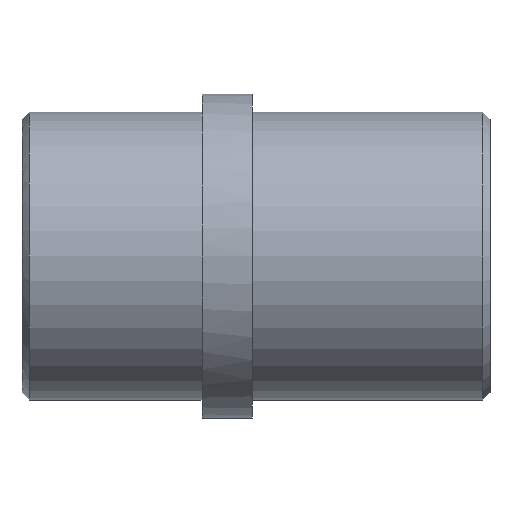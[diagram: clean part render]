
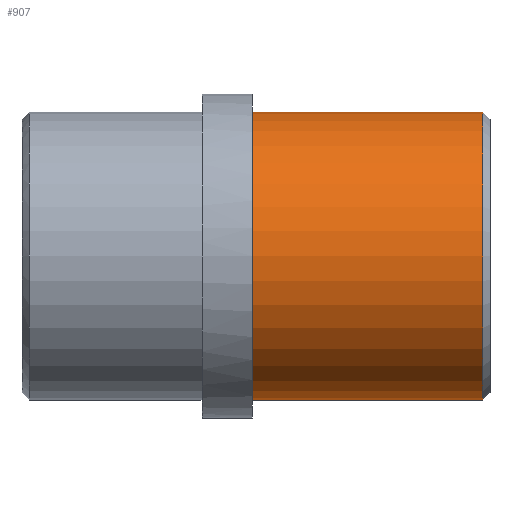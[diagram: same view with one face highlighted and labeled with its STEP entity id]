
A CAD part, front view. The second image highlights one B-rep face of the part: STEP entity #907.
In plain terms, the highlighted cylindrical face has radius 20 mm (diameter 40 mm), a partial arc.
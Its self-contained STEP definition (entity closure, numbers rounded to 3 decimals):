
#773=CARTESIAN_POINT('Vertex',(0.,0.,-20.)) ;
#778=CARTESIAN_POINT('Axis2P3D Location',(0.,0.,0.)) ;
#782=CARTESIAN_POINT('Vertex',(0.,-20.,0.)) ;
#785=CARTESIAN_POINT('Axis2P3D Location',(0.,0.,0.)) ;
#789=CARTESIAN_POINT('Vertex',(0.,0.,20.)) ;
#813=CARTESIAN_POINT('Vertex',(32.,0.,20.)) ;
#820=CARTESIAN_POINT('Vertex',(32.,0.,-20.)) ;
#849=CARTESIAN_POINT('Axis2P3D Location',(32.,0.,0.)) ;
#853=CARTESIAN_POINT('Vertex',(32.,-20.,0.)) ;
#856=CARTESIAN_POINT('Axis2P3D Location',(32.,0.,0.)) ;
#875=CARTESIAN_POINT('Line Origine',(33.,0.,20.)) ;
#880=CARTESIAN_POINT('Line Origine',(33.,0.,-20.)) ;
#894=CARTESIAN_POINT('Axis2P3D Location',(33.,0.,0.)) ;
#779=DIRECTION('Axis2P3D Direction',(1.,0.,-0.)) ;
#786=DIRECTION('Axis2P3D Direction',(1.,0.,-0.)) ;
#850=DIRECTION('Axis2P3D Direction',(-1.,0.,0.)) ;
#857=DIRECTION('Axis2P3D Direction',(-1.,0.,0.)) ;
#876=DIRECTION('Vector Direction',(-1.,0.,0.)) ;
#881=DIRECTION('Vector Direction',(-1.,0.,0.)) ;
#895=DIRECTION('Axis2P3D Direction',(-1.,-0.,-0.)) ;
#896=DIRECTION('Axis2P3D XDirection',(0.,0.,-1.)) ;
#780=AXIS2_PLACEMENT_3D('Circle Axis2P3D',#778,#779,$) ;
#787=AXIS2_PLACEMENT_3D('Circle Axis2P3D',#785,#786,$) ;
#851=AXIS2_PLACEMENT_3D('Circle Axis2P3D',#849,#850,$) ;
#858=AXIS2_PLACEMENT_3D('Circle Axis2P3D',#856,#857,$) ;
#897=AXIS2_PLACEMENT_3D('Cylinder Axis2P3D',#894,#895,#896) ;
#900=ORIENTED_EDGE('',*,*,#884,.T.) ;
#901=ORIENTED_EDGE('',*,*,#860,.F.) ;
#902=ORIENTED_EDGE('',*,*,#855,.F.) ;
#903=ORIENTED_EDGE('',*,*,#879,.T.) ;
#904=ORIENTED_EDGE('',*,*,#791,.T.) ;
#905=ORIENTED_EDGE('',*,*,#784,.T.) ;
#877=VECTOR('Line Direction',#876,1.) ;
#882=VECTOR('Line Direction',#881,1.) ;
#907=ADVANCED_FACE('355-32X65',(#906),#898,.T.) ;
#781=CIRCLE('generated circle',#780,20.) ;
#788=CIRCLE('generated circle',#787,20.) ;
#852=CIRCLE('generated circle',#851,20.) ;
#859=CIRCLE('generated circle',#858,20.) ;
#898=CYLINDRICAL_SURFACE('generated cylinder',#897,20.) ;
#784=EDGE_CURVE('',#783,#774,#781,.T.) ;
#791=EDGE_CURVE('',#790,#783,#788,.T.) ;
#855=EDGE_CURVE('',#814,#854,#852,.F.) ;
#860=EDGE_CURVE('',#854,#821,#859,.F.) ;
#879=EDGE_CURVE('',#814,#790,#878,.T.) ;
#884=EDGE_CURVE('',#774,#821,#883,.F.) ;
#899=EDGE_LOOP('',(#900,#901,#902,#903,#904,#905)) ;
#906=FACE_OUTER_BOUND('',#899,.T.) ;
#878=LINE('Line',#875,#877) ;
#883=LINE('Line',#880,#882) ;
#774=VERTEX_POINT('',#773) ;
#783=VERTEX_POINT('',#782) ;
#790=VERTEX_POINT('',#789) ;
#814=VERTEX_POINT('',#813) ;
#821=VERTEX_POINT('',#820) ;
#854=VERTEX_POINT('',#853) ;
